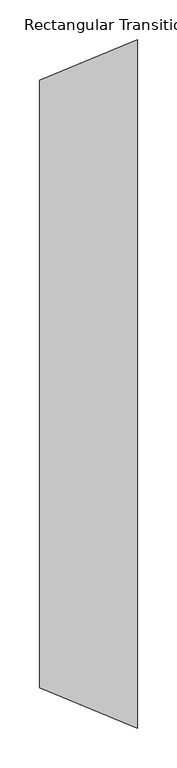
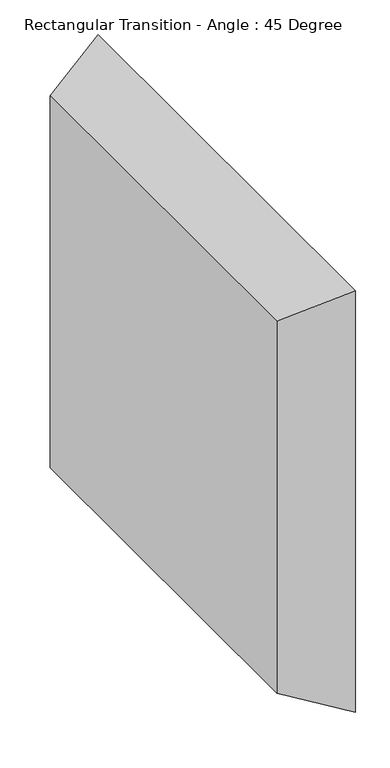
"""IFC4 building model written with IfcOpenShell, lengths in millimetres: duct fitting geometry, Rectangular Transition - Angle : 45 Degree."""

from ifc_helpers import new_model, si_unit, origin, place, context, project, spatial, faceted_brep, source, transform, mapped, element, save


def rectangular_transition_angle_45_degree_68a511a3(model_context):
    return source(origin(), model_context, "Body", "Brep", [
        faceted_brep([(122.642049, -431.8, 431.8), (122.642049, -431.8, -431.8), (122.642049, 431.8, -431.8), (122.642049, 431.8, 431.8), (0.0, -381.0, 381.0), (0.0, 381.0, 381.0), (0.0, 381.0, -381.0), (0.0, -381.0, -381.0)], [[[0, 1, 2, 3]], [[4, 5, 6, 7]], [[4, 7, 1, 0]], [[7, 6, 2, 1]], [[6, 5, 3, 2]], [[5, 4, 0, 3]]]),
    ])


if __name__ == "__main__":
    model = new_model("IFC4")
    model_context = context("Model", 3, world=origin())
    ifc_project = project(units=[si_unit("LENGTHUNIT", "METRE", prefix="MILLI")], contexts=[model_context])
    site = spatial("IfcSite", under=ifc_project)
    building = spatial("IfcBuilding", under=site)
    placement = place(None, origin())
    rectangular_transition_angle_45_degree_shape = rectangular_transition_angle_45_degree_68a511a3(model_context)
    element("IfcDuctFitting", 1, ObjectType="Rectangular Transition - Angle : 45 Degree", at=placement, inside=building, context=model_context, shape_type="MappedRepresentation", body=[
        mapped(rectangular_transition_angle_45_degree_shape, transform((0.0, 0.0, 0.0), x_axis=(1.0, 0.0, 0.0), y_axis=(0.0, 1.0, 0.0), z_axis=(0.0, 0.0, 1.0))),
    ])
    save(model, "model.ifc")
